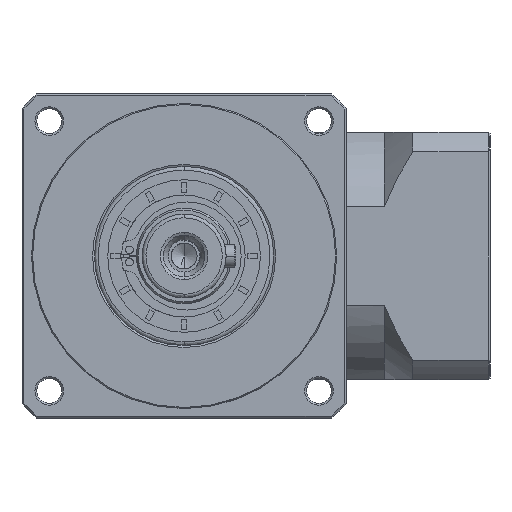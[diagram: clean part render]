
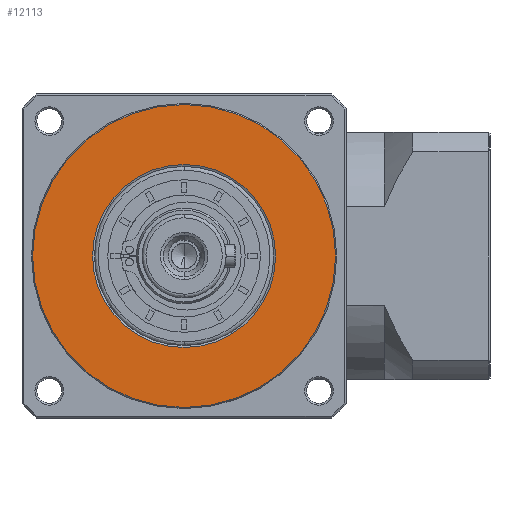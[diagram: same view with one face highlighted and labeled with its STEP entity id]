
A CAD part, left-side view. The second image highlights one B-rep face of the part: STEP entity #12113.
In plain terms, the highlighted planar face has unit normal (-1, 0, 0).
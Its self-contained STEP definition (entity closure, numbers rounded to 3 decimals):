
#5868 = DIRECTION ( 'NONE',  ( 0., 1., 0. ) ) ;
#6803 = VERTEX_POINT ( 'NONE', #129702 ) ;
#11024 = CARTESIAN_POINT ( 'NONE',  ( -146.111, -15.439, -117.334 ) ) ;
#12113 = ADVANCED_FACE ( 'NONE', ( #34882, #71474 ), #50804, .T. ) ;
#13945 = EDGE_CURVE ( 'NONE', #45135, #151001, #143180, .T. ) ;
#22330 = ORIENTED_EDGE ( 'NONE', *, *, #13945, .T. ) ;
#24861 = DIRECTION ( 'NONE',  ( 0., 0., -1. ) ) ;
#31364 = CIRCLE ( 'NONE', #126684, 39.711 ) ;
#34882 = FACE_OUTER_BOUND ( 'NONE', #158768, .T. ) ;
#37530 = DIRECTION ( 'NONE',  ( -1., 0., 0. ) ) ;
#41432 = CARTESIAN_POINT ( 'NONE',  ( -146.111, -15.439, -141.334 ) ) ;
#43402 = DIRECTION ( 'NONE',  ( 1., 0., 0. ) ) ;
#45135 = VERTEX_POINT ( 'NONE', #41432 ) ;
#50804 = PLANE ( 'NONE',  #149560 ) ;
#60408 = DIRECTION ( 'NONE',  ( 1., 0., 0. ) ) ;
#65592 = CIRCLE ( 'NONE', #134197, 39.711 ) ;
#65742 = AXIS2_PLACEMENT_3D ( 'NONE', #11024, #107324, #24861 ) ;
#71474 = FACE_BOUND ( 'NONE', #112470, .T. ) ;
#71850 = ORIENTED_EDGE ( 'NONE', *, *, #135933, .T. ) ;
#84117 = CIRCLE ( 'NONE', #116560, 24. ) ;
#88362 = DIRECTION ( 'NONE',  ( 1., 0., 0. ) ) ;
#100291 = ORIENTED_EDGE ( 'NONE', *, *, #106665, .F. ) ;
#106665 = EDGE_CURVE ( 'NONE', #146464, #6803, #31364, .T. ) ;
#107324 = DIRECTION ( 'NONE',  ( 1., 0., 0. ) ) ;
#110091 = CARTESIAN_POINT ( 'NONE',  ( -146.111, -15.439, -93.334 ) ) ;
#112470 = EDGE_LOOP ( 'NONE', ( #22330, #71850 ) ) ;
#116560 = AXIS2_PLACEMENT_3D ( 'NONE', #125915, #43402, #139680 ) ;
#120172 = CARTESIAN_POINT ( 'NONE',  ( -146.111, -15.439, -117.334 ) ) ;
#125915 = CARTESIAN_POINT ( 'NONE',  ( -146.111, -15.439, -117.334 ) ) ;
#126684 = AXIS2_PLACEMENT_3D ( 'NONE', #170750, #88362, #5868 ) ;
#129702 = CARTESIAN_POINT ( 'NONE',  ( -146.111, -55.15, -117.334 ) ) ;
#133930 = DIRECTION ( 'NONE',  ( 0., 0., -1. ) ) ;
#134197 = AXIS2_PLACEMENT_3D ( 'NONE', #142879, #60408, #156619 ) ;
#135933 = EDGE_CURVE ( 'NONE', #151001, #45135, #84117, .T. ) ;
#139680 = DIRECTION ( 'NONE',  ( 0., 0., -1. ) ) ;
#142879 = CARTESIAN_POINT ( 'NONE',  ( -146.111, -15.439, -117.334 ) ) ;
#143180 = CIRCLE ( 'NONE', #65742, 24. ) ;
#146464 = VERTEX_POINT ( 'NONE', #172335 ) ;
#149560 = AXIS2_PLACEMENT_3D ( 'NONE', #120172, #37530, #133930 ) ;
#151001 = VERTEX_POINT ( 'NONE', #110091 ) ;
#156619 = DIRECTION ( 'NONE',  ( 0., 1., 0. ) ) ;
#157391 = EDGE_CURVE ( 'NONE', #6803, #146464, #65592, .T. ) ;
#158768 = EDGE_LOOP ( 'NONE', ( #100291, #176816 ) ) ;
#170750 = CARTESIAN_POINT ( 'NONE',  ( -146.111, -15.439, -117.334 ) ) ;
#172335 = CARTESIAN_POINT ( 'NONE',  ( -146.111, 24.272, -117.334 ) ) ;
#176816 = ORIENTED_EDGE ( 'NONE', *, *, #157391, .F. ) ;
